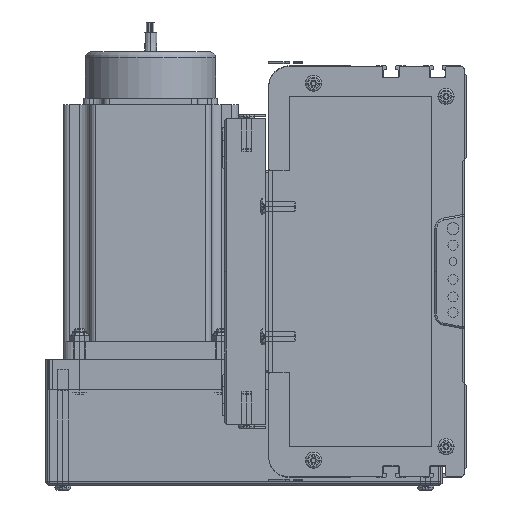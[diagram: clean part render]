
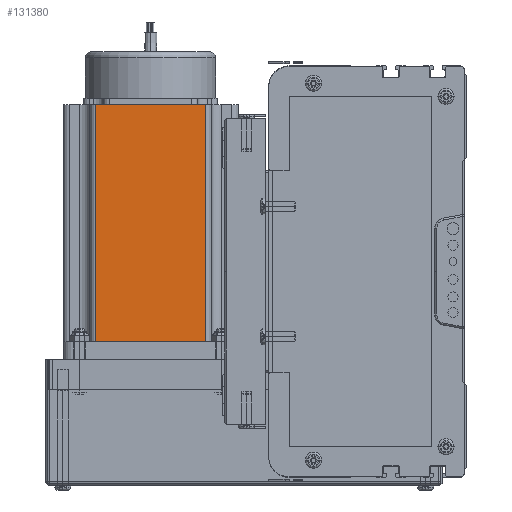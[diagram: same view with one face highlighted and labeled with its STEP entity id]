
A CAD part, left-side view. The second image highlights one B-rep face of the part: STEP entity #131380.
In plain terms, the highlighted planar face has unit normal (-1, 0, 0) as drawn and (0, -1, 0) by its records, which use the part's own axes.
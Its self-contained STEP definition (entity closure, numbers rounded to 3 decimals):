
#9546 = CARTESIAN_POINT ( 'NONE',  ( 69.74, 0., 116.5 ) ) ;
#9581 = CARTESIAN_POINT ( 'NONE',  ( 16.16, 0., 0. ) ) ;
#9673 = PLANE ( 'NONE',  #9678 ) ;
#9678 = AXIS2_PLACEMENT_3D ( 'NONE', #9711, #9710, #9709 ) ;
#9703 = DIRECTION ( 'NONE',  ( 1., 0., 0. ) ) ;
#9704 = VECTOR ( 'NONE', #9703, 1000. ) ;
#9705 = CARTESIAN_POINT ( 'NONE',  ( 0., 0., 0. ) ) ;
#9709 = DIRECTION ( 'NONE',  ( 0., 0., 1. ) ) ;
#9710 = DIRECTION ( 'NONE',  ( 0., 1., 0. ) ) ;
#9711 = CARTESIAN_POINT ( 'NONE',  ( 0., 0., 116.5 ) ) ;
#9712 = CARTESIAN_POINT ( 'NONE',  ( 16.16, 0., 116.5 ) ) ;
#9713 = LINE ( 'NONE', #9705, #9704 ) ;
#9738 = FACE_OUTER_BOUND ( 'NONE', #131439, .T. ) ;
#9759 = DIRECTION ( 'NONE',  ( 0., 0., 1. ) ) ;
#9760 = VECTOR ( 'NONE', #9759, 1000. ) ;
#9761 = CARTESIAN_POINT ( 'NONE',  ( 69.74, 0., 116.5 ) ) ;
#9762 = LINE ( 'NONE', #9761, #9760 ) ;
#9783 = CARTESIAN_POINT ( 'NONE',  ( 69.74, 0., 0. ) ) ;
#9794 = DIRECTION ( 'NONE',  ( 0., 0., -1. ) ) ;
#9795 = VECTOR ( 'NONE', #9794, 1000. ) ;
#9796 = CARTESIAN_POINT ( 'NONE',  ( 16.16, 0., 116.5 ) ) ;
#9800 = LINE ( 'NONE', #9796, #9795 ) ;
#9812 = DIRECTION ( 'NONE',  ( 1., 0., 0. ) ) ;
#9813 = VECTOR ( 'NONE', #9812, 1000. ) ;
#9814 = CARTESIAN_POINT ( 'NONE',  ( 0., 0., 116.5 ) ) ;
#9815 = LINE ( 'NONE', #9814, #9813 ) ;
#131380 = ADVANCED_FACE ( 'NONE', ( #9738 ), #9673, .F. ) ;
#131381 = VERTEX_POINT ( 'NONE', #9712 ) ;
#131383 = EDGE_CURVE ( 'NONE', #131454, #131421, #9713, .T. ) ;
#131391 = EDGE_CURVE ( 'NONE', #131421, #131452, #9762, .T. ) ;
#131398 = ORIENTED_EDGE ( 'NONE', *, *, #131391, .T. ) ;
#131411 = ORIENTED_EDGE ( 'NONE', *, *, #131432, .F. ) ;
#131413 = EDGE_CURVE ( 'NONE', #131381, #131454, #9800, .T. ) ;
#131417 = ORIENTED_EDGE ( 'NONE', *, *, #131413, .T. ) ;
#131421 = VERTEX_POINT ( 'NONE', #9783 ) ;
#131432 = EDGE_CURVE ( 'NONE', #131381, #131452, #9815, .T. ) ;
#131434 = ORIENTED_EDGE ( 'NONE', *, *, #131383, .T. ) ;
#131439 = EDGE_LOOP ( 'NONE', ( #131434, #131398, #131411, #131417 ) ) ;
#131452 = VERTEX_POINT ( 'NONE', #9546 ) ;
#131454 = VERTEX_POINT ( 'NONE', #9581 ) ;
